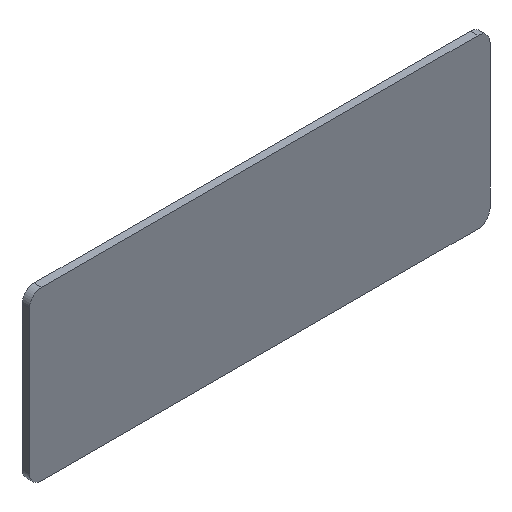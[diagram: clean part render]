
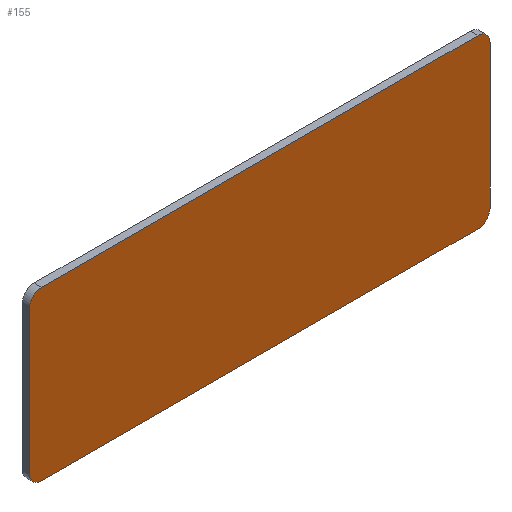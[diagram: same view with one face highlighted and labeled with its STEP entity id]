
A CAD part, isometric view. The second image highlights one B-rep face of the part: STEP entity #155.
In plain terms, the highlighted planar face has unit normal (0, -1, 0).
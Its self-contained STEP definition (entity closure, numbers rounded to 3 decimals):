
#39 = EDGE_CURVE('',#40,#42,#44,.T.);
#40 = VERTEX_POINT('',#41);
#41 = CARTESIAN_POINT('',(-77.,-1.25,-24.));
#42 = VERTEX_POINT('',#43);
#43 = CARTESIAN_POINT('',(-77.,-1.25,24.));
#44 = SURFACE_CURVE('',#45,(#49,#61),.PCURVE_S1.);
#45 = LINE('',#46,#47);
#46 = CARTESIAN_POINT('',(-77.,-1.25,-28.));
#47 = VECTOR('',#48,1.);
#48 = DIRECTION('',(0.,0.,1.));
#49 = PCURVE('',#50,#55);
#50 = PLANE('',#51);
#51 = AXIS2_PLACEMENT_3D('',#52,#53,#54);
#52 = CARTESIAN_POINT('',(-77.,-1.25,-28.));
#53 = DIRECTION('',(1.,0.,-0.));
#54 = DIRECTION('',(0.,0.,1.));
#55 = DEFINITIONAL_REPRESENTATION('',(#56),#60);
#56 = LINE('',#57,#58);
#57 = CARTESIAN_POINT('',(0.,0.));
#58 = VECTOR('',#59,1.);
#59 = DIRECTION('',(1.,0.));
#60 = ( GEOMETRIC_REPRESENTATION_CONTEXT(2) 
PARAMETRIC_REPRESENTATION_CONTEXT() REPRESENTATION_CONTEXT('2D SPACE',''
  ) );
#61 = PCURVE('',#62,#67);
#62 = PLANE('',#63);
#63 = AXIS2_PLACEMENT_3D('',#64,#65,#66);
#64 = CARTESIAN_POINT('',(-77.,-1.25,-28.));
#65 = DIRECTION('',(-0.,1.,0.));
#66 = DIRECTION('',(0.,0.,1.));
#67 = DEFINITIONAL_REPRESENTATION('',(#68),#72);
#68 = LINE('',#69,#70);
#69 = CARTESIAN_POINT('',(0.,0.));
#70 = VECTOR('',#71,1.);
#71 = DIRECTION('',(1.,0.));
#72 = ( GEOMETRIC_REPRESENTATION_CONTEXT(2) 
PARAMETRIC_REPRESENTATION_CONTEXT() REPRESENTATION_CONTEXT('2D SPACE',''
  ) );
#90 = CYLINDRICAL_SURFACE('',#91,4.);
#91 = AXIS2_PLACEMENT_3D('',#92,#93,#94);
#92 = CARTESIAN_POINT('',(-73.,-1.25,-24.));
#93 = DIRECTION('',(-0.,1.,0.));
#94 = DIRECTION('',(-1.,-0.,0.));
#144 = CYLINDRICAL_SURFACE('',#145,4.);
#145 = AXIS2_PLACEMENT_3D('',#146,#147,#148);
#146 = CARTESIAN_POINT('',(-73.,-1.25,24.));
#147 = DIRECTION('',(-0.,1.,0.));
#148 = DIRECTION('',(-1.,-0.,0.));
#155 = ADVANCED_FACE('',(#156),#62,.F.);
#156 = FACE_BOUND('',#157,.F.);
#157 = EDGE_LOOP('',(#158,#188,#214,#215,#239,#267,#300,#328));
#158 = ORIENTED_EDGE('',*,*,#159,.F.);
#159 = EDGE_CURVE('',#160,#162,#164,.T.);
#160 = VERTEX_POINT('',#161);
#161 = CARTESIAN_POINT('',(-73.,-1.25,-28.));
#162 = VERTEX_POINT('',#163);
#163 = CARTESIAN_POINT('',(73.,-1.25,-28.));
#164 = SURFACE_CURVE('',#165,(#169,#176),.PCURVE_S1.);
#165 = LINE('',#166,#167);
#166 = CARTESIAN_POINT('',(-77.,-1.25,-28.));
#167 = VECTOR('',#168,1.);
#168 = DIRECTION('',(1.,0.,-0.));
#169 = PCURVE('',#62,#170);
#170 = DEFINITIONAL_REPRESENTATION('',(#171),#175);
#171 = LINE('',#172,#173);
#172 = CARTESIAN_POINT('',(0.,0.));
#173 = VECTOR('',#174,1.);
#174 = DIRECTION('',(0.,1.));
#175 = ( GEOMETRIC_REPRESENTATION_CONTEXT(2) 
PARAMETRIC_REPRESENTATION_CONTEXT() REPRESENTATION_CONTEXT('2D SPACE',''
  ) );
#176 = PCURVE('',#177,#182);
#177 = PLANE('',#178);
#178 = AXIS2_PLACEMENT_3D('',#179,#180,#181);
#179 = CARTESIAN_POINT('',(-77.,-1.25,-28.));
#180 = DIRECTION('',(0.,0.,1.));
#181 = DIRECTION('',(1.,0.,-0.));
#182 = DEFINITIONAL_REPRESENTATION('',(#183),#187);
#183 = LINE('',#184,#185);
#184 = CARTESIAN_POINT('',(0.,0.));
#185 = VECTOR('',#186,1.);
#186 = DIRECTION('',(1.,0.));
#187 = ( GEOMETRIC_REPRESENTATION_CONTEXT(2) 
PARAMETRIC_REPRESENTATION_CONTEXT() REPRESENTATION_CONTEXT('2D SPACE',''
  ) );
#188 = ORIENTED_EDGE('',*,*,#189,.F.);
#189 = EDGE_CURVE('',#40,#160,#190,.T.);
#190 = SURFACE_CURVE('',#191,(#196,#207),.PCURVE_S1.);
#191 = CIRCLE('',#192,4.);
#192 = AXIS2_PLACEMENT_3D('',#193,#194,#195);
#193 = CARTESIAN_POINT('',(-73.,-1.25,-24.));
#194 = DIRECTION('',(0.,-1.,0.));
#195 = DIRECTION('',(0.,0.,1.));
#196 = PCURVE('',#62,#197);
#197 = DEFINITIONAL_REPRESENTATION('',(#198),#206);
#198 = ( BOUNDED_CURVE() B_SPLINE_CURVE(2,(#199,#200,#201,#202,#203,#204
,#205),.UNSPECIFIED.,.T.,.F.) B_SPLINE_CURVE_WITH_KNOTS((1,2,2,2,2,1),(
    -2.094,0.,2.094,4.189,6.283,
8.378),.UNSPECIFIED.) CURVE() GEOMETRIC_REPRESENTATION_ITEM() 
RATIONAL_B_SPLINE_CURVE((1.,0.5,1.,0.5,1.,0.5,1.)) REPRESENTATION_ITEM(
  '') );
#199 = CARTESIAN_POINT('',(8.,4.));
#200 = CARTESIAN_POINT('',(8.,-2.928));
#201 = CARTESIAN_POINT('',(2.,0.536));
#202 = CARTESIAN_POINT('',(-4.,4.));
#203 = CARTESIAN_POINT('',(2.,7.464));
#204 = CARTESIAN_POINT('',(8.,10.928));
#205 = CARTESIAN_POINT('',(8.,4.));
#206 = ( GEOMETRIC_REPRESENTATION_CONTEXT(2) 
PARAMETRIC_REPRESENTATION_CONTEXT() REPRESENTATION_CONTEXT('2D SPACE',''
  ) );
#207 = PCURVE('',#90,#208);
#208 = DEFINITIONAL_REPRESENTATION('',(#209),#213);
#209 = LINE('',#210,#211);
#210 = CARTESIAN_POINT('',(1.571,-0.));
#211 = VECTOR('',#212,1.);
#212 = DIRECTION('',(-1.,0.));
#213 = ( GEOMETRIC_REPRESENTATION_CONTEXT(2) 
PARAMETRIC_REPRESENTATION_CONTEXT() REPRESENTATION_CONTEXT('2D SPACE',''
  ) );
#214 = ORIENTED_EDGE('',*,*,#39,.T.);
#215 = ORIENTED_EDGE('',*,*,#216,.T.);
#216 = EDGE_CURVE('',#42,#217,#219,.T.);
#217 = VERTEX_POINT('',#218);
#218 = CARTESIAN_POINT('',(-73.,-1.25,28.));
#219 = SURFACE_CURVE('',#220,(#225,#232),.PCURVE_S1.);
#220 = CIRCLE('',#221,4.);
#221 = AXIS2_PLACEMENT_3D('',#222,#223,#224);
#222 = CARTESIAN_POINT('',(-73.,-1.25,24.));
#223 = DIRECTION('',(-0.,1.,0.));
#224 = DIRECTION('',(0.,0.,1.));
#225 = PCURVE('',#62,#226);
#226 = DEFINITIONAL_REPRESENTATION('',(#227),#231);
#227 = CIRCLE('',#228,4.);
#228 = AXIS2_PLACEMENT_2D('',#229,#230);
#229 = CARTESIAN_POINT('',(52.,4.));
#230 = DIRECTION('',(1.,0.));
#231 = ( GEOMETRIC_REPRESENTATION_CONTEXT(2) 
PARAMETRIC_REPRESENTATION_CONTEXT() REPRESENTATION_CONTEXT('2D SPACE',''
  ) );
#232 = PCURVE('',#144,#233);
#233 = DEFINITIONAL_REPRESENTATION('',(#234),#238);
#234 = LINE('',#235,#236);
#235 = CARTESIAN_POINT('',(-4.712,0.));
#236 = VECTOR('',#237,1.);
#237 = DIRECTION('',(1.,0.));
#238 = ( GEOMETRIC_REPRESENTATION_CONTEXT(2) 
PARAMETRIC_REPRESENTATION_CONTEXT() REPRESENTATION_CONTEXT('2D SPACE',''
  ) );
#239 = ORIENTED_EDGE('',*,*,#240,.T.);
#240 = EDGE_CURVE('',#217,#241,#243,.T.);
#241 = VERTEX_POINT('',#242);
#242 = CARTESIAN_POINT('',(73.,-1.25,28.));
#243 = SURFACE_CURVE('',#244,(#248,#255),.PCURVE_S1.);
#244 = LINE('',#245,#246);
#245 = CARTESIAN_POINT('',(-77.,-1.25,28.));
#246 = VECTOR('',#247,1.);
#247 = DIRECTION('',(1.,0.,-0.));
#248 = PCURVE('',#62,#249);
#249 = DEFINITIONAL_REPRESENTATION('',(#250),#254);
#250 = LINE('',#251,#252);
#251 = CARTESIAN_POINT('',(56.,0.));
#252 = VECTOR('',#253,1.);
#253 = DIRECTION('',(0.,1.));
#254 = ( GEOMETRIC_REPRESENTATION_CONTEXT(2) 
PARAMETRIC_REPRESENTATION_CONTEXT() REPRESENTATION_CONTEXT('2D SPACE',''
  ) );
#255 = PCURVE('',#256,#261);
#256 = PLANE('',#257);
#257 = AXIS2_PLACEMENT_3D('',#258,#259,#260);
#258 = CARTESIAN_POINT('',(-77.,-1.25,28.));
#259 = DIRECTION('',(0.,0.,1.));
#260 = DIRECTION('',(1.,0.,-0.));
#261 = DEFINITIONAL_REPRESENTATION('',(#262),#266);
#262 = LINE('',#263,#264);
#263 = CARTESIAN_POINT('',(0.,0.));
#264 = VECTOR('',#265,1.);
#265 = DIRECTION('',(1.,0.));
#266 = ( GEOMETRIC_REPRESENTATION_CONTEXT(2) 
PARAMETRIC_REPRESENTATION_CONTEXT() REPRESENTATION_CONTEXT('2D SPACE',''
  ) );
#267 = ORIENTED_EDGE('',*,*,#268,.F.);
#268 = EDGE_CURVE('',#269,#241,#271,.T.);
#269 = VERTEX_POINT('',#270);
#270 = CARTESIAN_POINT('',(77.,-1.25,24.));
#271 = SURFACE_CURVE('',#272,(#277,#288),.PCURVE_S1.);
#272 = CIRCLE('',#273,4.);
#273 = AXIS2_PLACEMENT_3D('',#274,#275,#276);
#274 = CARTESIAN_POINT('',(73.,-1.25,24.));
#275 = DIRECTION('',(0.,-1.,0.));
#276 = DIRECTION('',(0.,0.,1.));
#277 = PCURVE('',#62,#278);
#278 = DEFINITIONAL_REPRESENTATION('',(#279),#287);
#279 = ( BOUNDED_CURVE() B_SPLINE_CURVE(2,(#280,#281,#282,#283,#284,#285
,#286),.UNSPECIFIED.,.T.,.F.) B_SPLINE_CURVE_WITH_KNOTS((1,2,2,2,2,1),(
    -2.094,0.,2.094,4.189,6.283,
8.378),.UNSPECIFIED.) CURVE() GEOMETRIC_REPRESENTATION_ITEM() 
RATIONAL_B_SPLINE_CURVE((1.,0.5,1.,0.5,1.,0.5,1.)) REPRESENTATION_ITEM(
  '') );
#280 = CARTESIAN_POINT('',(56.,150.));
#281 = CARTESIAN_POINT('',(56.,143.072));
#282 = CARTESIAN_POINT('',(50.,146.536));
#283 = CARTESIAN_POINT('',(44.,150.));
#284 = CARTESIAN_POINT('',(50.,153.464));
#285 = CARTESIAN_POINT('',(56.,156.928));
#286 = CARTESIAN_POINT('',(56.,150.));
#287 = ( GEOMETRIC_REPRESENTATION_CONTEXT(2) 
PARAMETRIC_REPRESENTATION_CONTEXT() REPRESENTATION_CONTEXT('2D SPACE',''
  ) );
#288 = PCURVE('',#289,#294);
#289 = CYLINDRICAL_SURFACE('',#290,4.);
#290 = AXIS2_PLACEMENT_3D('',#291,#292,#293);
#291 = CARTESIAN_POINT('',(73.,-1.25,24.));
#292 = DIRECTION('',(-0.,1.,0.));
#293 = DIRECTION('',(1.,0.,-0.));
#294 = DEFINITIONAL_REPRESENTATION('',(#295),#299);
#295 = LINE('',#296,#297);
#296 = CARTESIAN_POINT('',(4.712,-0.));
#297 = VECTOR('',#298,1.);
#298 = DIRECTION('',(-1.,0.));
#299 = ( GEOMETRIC_REPRESENTATION_CONTEXT(2) 
PARAMETRIC_REPRESENTATION_CONTEXT() REPRESENTATION_CONTEXT('2D SPACE',''
  ) );
#300 = ORIENTED_EDGE('',*,*,#301,.F.);
#301 = EDGE_CURVE('',#302,#269,#304,.T.);
#302 = VERTEX_POINT('',#303);
#303 = CARTESIAN_POINT('',(77.,-1.25,-24.));
#304 = SURFACE_CURVE('',#305,(#309,#316),.PCURVE_S1.);
#305 = LINE('',#306,#307);
#306 = CARTESIAN_POINT('',(77.,-1.25,-28.));
#307 = VECTOR('',#308,1.);
#308 = DIRECTION('',(0.,0.,1.));
#309 = PCURVE('',#62,#310);
#310 = DEFINITIONAL_REPRESENTATION('',(#311),#315);
#311 = LINE('',#312,#313);
#312 = CARTESIAN_POINT('',(0.,154.));
#313 = VECTOR('',#314,1.);
#314 = DIRECTION('',(1.,0.));
#315 = ( GEOMETRIC_REPRESENTATION_CONTEXT(2) 
PARAMETRIC_REPRESENTATION_CONTEXT() REPRESENTATION_CONTEXT('2D SPACE',''
  ) );
#316 = PCURVE('',#317,#322);
#317 = PLANE('',#318);
#318 = AXIS2_PLACEMENT_3D('',#319,#320,#321);
#319 = CARTESIAN_POINT('',(77.,-1.25,-28.));
#320 = DIRECTION('',(1.,0.,-0.));
#321 = DIRECTION('',(0.,0.,1.));
#322 = DEFINITIONAL_REPRESENTATION('',(#323),#327);
#323 = LINE('',#324,#325);
#324 = CARTESIAN_POINT('',(0.,0.));
#325 = VECTOR('',#326,1.);
#326 = DIRECTION('',(1.,0.));
#327 = ( GEOMETRIC_REPRESENTATION_CONTEXT(2) 
PARAMETRIC_REPRESENTATION_CONTEXT() REPRESENTATION_CONTEXT('2D SPACE',''
  ) );
#328 = ORIENTED_EDGE('',*,*,#329,.T.);
#329 = EDGE_CURVE('',#302,#162,#330,.T.);
#330 = SURFACE_CURVE('',#331,(#336,#343),.PCURVE_S1.);
#331 = CIRCLE('',#332,4.);
#332 = AXIS2_PLACEMENT_3D('',#333,#334,#335);
#333 = CARTESIAN_POINT('',(73.,-1.25,-24.));
#334 = DIRECTION('',(-0.,1.,0.));
#335 = DIRECTION('',(0.,0.,1.));
#336 = PCURVE('',#62,#337);
#337 = DEFINITIONAL_REPRESENTATION('',(#338),#342);
#338 = CIRCLE('',#339,4.);
#339 = AXIS2_PLACEMENT_2D('',#340,#341);
#340 = CARTESIAN_POINT('',(4.,150.));
#341 = DIRECTION('',(1.,0.));
#342 = ( GEOMETRIC_REPRESENTATION_CONTEXT(2) 
PARAMETRIC_REPRESENTATION_CONTEXT() REPRESENTATION_CONTEXT('2D SPACE',''
  ) );
#343 = PCURVE('',#344,#349);
#344 = CYLINDRICAL_SURFACE('',#345,4.);
#345 = AXIS2_PLACEMENT_3D('',#346,#347,#348);
#346 = CARTESIAN_POINT('',(73.,-1.25,-24.));
#347 = DIRECTION('',(-0.,1.,0.));
#348 = DIRECTION('',(1.,0.,-0.));
#349 = DEFINITIONAL_REPRESENTATION('',(#350),#354);
#350 = LINE('',#351,#352);
#351 = CARTESIAN_POINT('',(-1.571,0.));
#352 = VECTOR('',#353,1.);
#353 = DIRECTION('',(1.,0.));
#354 = ( GEOMETRIC_REPRESENTATION_CONTEXT(2) 
PARAMETRIC_REPRESENTATION_CONTEXT() REPRESENTATION_CONTEXT('2D SPACE',''
  ) );
